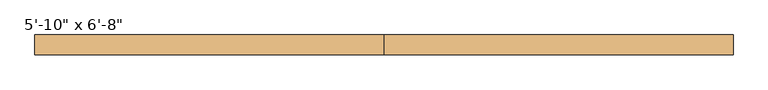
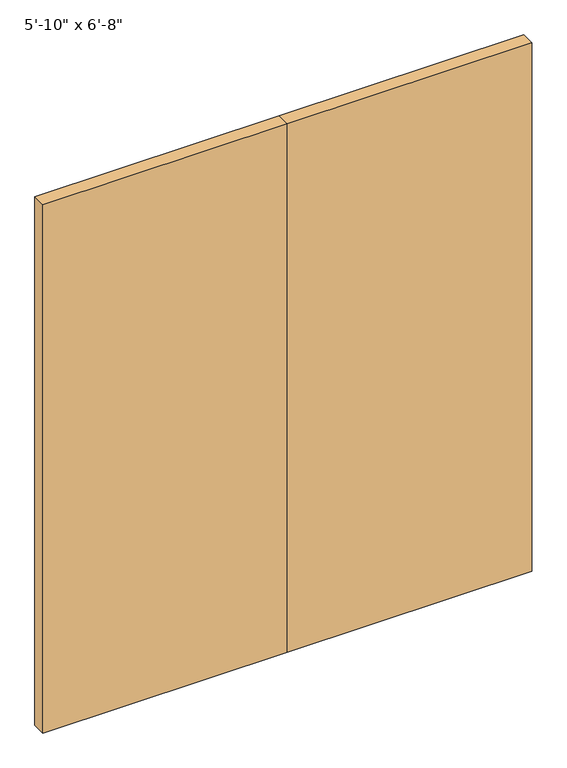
"""IFC4 building model written with IfcOpenShell, lengths in millimetres: door geometry."""

from ifc_helpers import new_model, si_unit, origin, origin_with_axes, place, context, project, spatial, polyline, outline, extrude, source, transform, mapped, element, save


def door_1b11d0cb(model_context):
    return source(origin(), model_context, "Body", "SweptSolid", [
        extrude(outline(polyline([(0.0, 76.2), (889.0, 76.2), (889.0, 26.2), (0.0, 26.2), (0.0, 76.2)])), origin_with_axes(), (0.0, 0.0, 1.0), 2032.0),
        extrude(outline(polyline([(-889.0, 76.2), (0.0, 76.2), (0.0, 26.2), (-889.0, 26.2), (-889.0, 76.2)])), origin_with_axes(), (0.0, 0.0, 1.0), 2032.0),
    ])


if __name__ == "__main__":
    model = new_model("IFC4")
    model_context = context("Model", 3, world=origin())
    ifc_project = project(units=[si_unit("LENGTHUNIT", "METRE", prefix="MILLI")], contexts=[model_context])
    site = spatial("IfcSite", under=ifc_project)
    building = spatial("IfcBuilding", under=site)
    placement = place(None, origin())
    door_shape = door_1b11d0cb(model_context)
    element("IfcDoor", 1, ObjectType="Planitar - Double Door_Flush Panel : 5'-10\" x 6'-8\"", at=placement, inside=building, context=model_context, shape_type="MappedRepresentation", body=[
        mapped(door_shape, transform((0.0, 0.0, 0.0), x_axis=(1.0, 0.0, 0.0), y_axis=(0.0, 1.0, 0.0), z_axis=(0.0, 0.0, 1.0))),
    ])
    save(model, "model.ifc")
